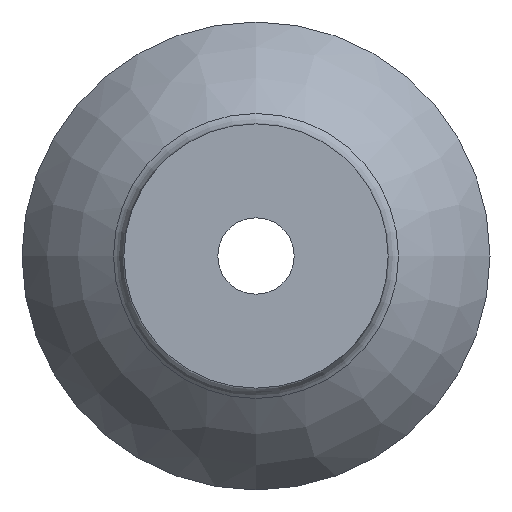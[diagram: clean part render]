
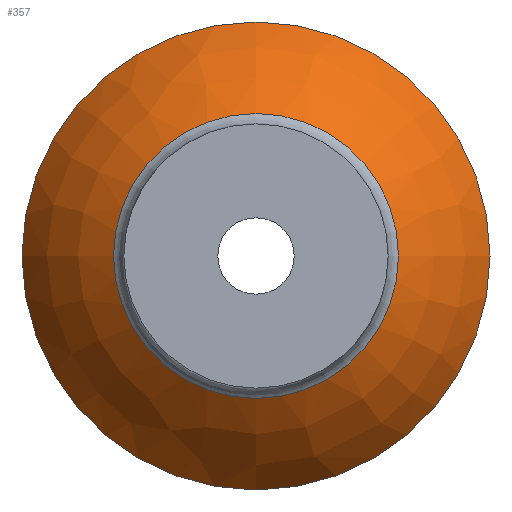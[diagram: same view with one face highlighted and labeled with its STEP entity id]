
A CAD part, front view. The second image highlights one B-rep face of the part: STEP entity #357.
In plain terms, the highlighted free-form (B-spline) face has degree [3, 3] with [4, 7] control points.
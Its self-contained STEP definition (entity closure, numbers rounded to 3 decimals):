
#142 = EDGE_CURVE ( 'NONE', #1506, #1506, #149, .T. ) ;
#149 = CIRCLE ( 'NONE', #2163, 19.3 ) ;
#238 = ORIENTED_EDGE ( 'NONE', *, *, #142, .T. ) ;
#272 = CARTESIAN_POINT ( 'NONE',  ( 466.59, 17.423, 19.3 ) ) ;
#281 = CARTESIAN_POINT ( 'NONE',  ( 470.235, 14.01, -17.478 ) ) ;
#292 = AXIS2_PLACEMENT_3D ( 'NONE', #1877, #1704, #802 ) ;
#357 = ADVANCED_FACE ( 'NONE', ( #1161, #2173 ), #1154, .T. ) ;
#420 = CARTESIAN_POINT ( 'NONE',  ( 505.19, 8.886, 11.749 ) ) ;
#433 = CARTESIAN_POINT ( 'NONE',  ( 475.362, 11.112, 14.914 ) ) ;
#442 = EDGE_CURVE ( 'NONE', #465, #465, #1750, .T. ) ;
#443 = CARTESIAN_POINT ( 'NONE',  ( 505.19, 17.423, -19.3 ) ) ;
#449 = CARTESIAN_POINT ( 'NONE',  ( 543.79, 17.423, 19.3 ) ) ;
#457 = CARTESIAN_POINT ( 'NONE',  ( 543.79, 17.423, -19.3 ) ) ;
#465 = VERTEX_POINT ( 'NONE', #505 ) ;
#466 = CARTESIAN_POINT ( 'NONE',  ( 505.19, 17.423, 19.3 ) ) ;
#505 = CARTESIAN_POINT ( 'NONE',  ( 505.19, 8.886, -11.749 ) ) ;
#521 = EDGE_LOOP ( 'NONE', ( #1017 ) ) ;
#695 = CARTESIAN_POINT ( 'NONE',  ( 505.19, 17.423, -19.3 ) ) ;
#802 = DIRECTION ( 'NONE',  ( 0., 0., -1. ) ) ;
#811 = CARTESIAN_POINT ( 'NONE',  ( 535.019, 11.112, 14.914 ) ) ;
#828 = CARTESIAN_POINT ( 'NONE',  ( 481.692, 8.886, -11.749 ) ) ;
#982 = CARTESIAN_POINT ( 'NONE',  ( 475.362, 11.112, -14.914 ) ) ;
#1002 = CARTESIAN_POINT ( 'NONE',  ( 540.146, 14.01, 17.478 ) ) ;
#1017 = ORIENTED_EDGE ( 'NONE', *, *, #442, .F. ) ;
#1154 =( BOUNDED_SURFACE ( )  B_SPLINE_SURFACE ( 3, 3, ( 
 ( #1298, #1837, #1490, #420, #2207, #828, #2055 ),
 ( #1532, #2072, #811, #1178, #433, #982, #1685 ),
 ( #1515, #1521, #1002, #1543, #2222, #281, #2238 ),
 ( #443, #457, #449, #466, #272, #1899, #1691 ) ),
 .UNSPECIFIED., .F., .T., .T. ) 
 B_SPLINE_SURFACE_WITH_KNOTS ( ( 4, 4 ),
 ( 4, 3, 4 ),
 ( 0., 1. ),
 ( 0., 0.5, 1. ),
 .UNSPECIFIED. ) 
 GEOMETRIC_REPRESENTATION_ITEM ( )  RATIONAL_B_SPLINE_SURFACE ( (
 ( 1., 0.333, 0.333, 1., 0.333, 0.333, 1.),
 ( 0.982, 0.327, 0.327, 0.982, 0.327, 0.327, 0.982),
 ( 0.982, 0.327, 0.327, 0.982, 0.327, 0.327, 0.982),
 ( 1., 0.333, 0.333, 1., 0.333, 0.333, 1.) ) ) 
 REPRESENTATION_ITEM ( '' )  SURFACE ( )  );
#1161 = FACE_OUTER_BOUND ( 'NONE', #1363, .T. ) ;
#1178 = CARTESIAN_POINT ( 'NONE',  ( 505.19, 11.112, 14.914 ) ) ;
#1298 = CARTESIAN_POINT ( 'NONE',  ( 505.19, 8.886, -11.749 ) ) ;
#1306 = DIRECTION ( 'NONE',  ( 0., 0., -1. ) ) ;
#1363 = EDGE_LOOP ( 'NONE', ( #238 ) ) ;
#1490 = CARTESIAN_POINT ( 'NONE',  ( 528.689, 8.886, 11.749 ) ) ;
#1506 = VERTEX_POINT ( 'NONE', #695 ) ;
#1515 = CARTESIAN_POINT ( 'NONE',  ( 505.19, 14.01, -17.478 ) ) ;
#1521 = CARTESIAN_POINT ( 'NONE',  ( 540.146, 14.01, -17.478 ) ) ;
#1532 = CARTESIAN_POINT ( 'NONE',  ( 505.19, 11.112, -14.914 ) ) ;
#1543 = CARTESIAN_POINT ( 'NONE',  ( 505.19, 14.01, 17.478 ) ) ;
#1680 = DIRECTION ( 'NONE',  ( 0., -1., 0. ) ) ;
#1685 = CARTESIAN_POINT ( 'NONE',  ( 505.19, 11.112, -14.914 ) ) ;
#1691 = CARTESIAN_POINT ( 'NONE',  ( 505.19, 17.423, -19.3 ) ) ;
#1704 = DIRECTION ( 'NONE',  ( 0., -1., 0. ) ) ;
#1750 = CIRCLE ( 'NONE', #292, 11.749 ) ;
#1827 = CARTESIAN_POINT ( 'NONE',  ( 505.19, 17.423, 0. ) ) ;
#1837 = CARTESIAN_POINT ( 'NONE',  ( 528.689, 8.886, -11.749 ) ) ;
#1877 = CARTESIAN_POINT ( 'NONE',  ( 505.19, 8.886, 0. ) ) ;
#1899 = CARTESIAN_POINT ( 'NONE',  ( 466.59, 17.423, -19.3 ) ) ;
#2055 = CARTESIAN_POINT ( 'NONE',  ( 505.19, 8.886, -11.749 ) ) ;
#2072 = CARTESIAN_POINT ( 'NONE',  ( 535.019, 11.112, -14.914 ) ) ;
#2163 = AXIS2_PLACEMENT_3D ( 'NONE', #1827, #1680, #1306 ) ;
#2173 = FACE_OUTER_BOUND ( 'NONE', #521, .T. ) ;
#2207 = CARTESIAN_POINT ( 'NONE',  ( 481.692, 8.886, 11.749 ) ) ;
#2222 = CARTESIAN_POINT ( 'NONE',  ( 470.235, 14.01, 17.478 ) ) ;
#2238 = CARTESIAN_POINT ( 'NONE',  ( 505.19, 14.01, -17.478 ) ) ;
